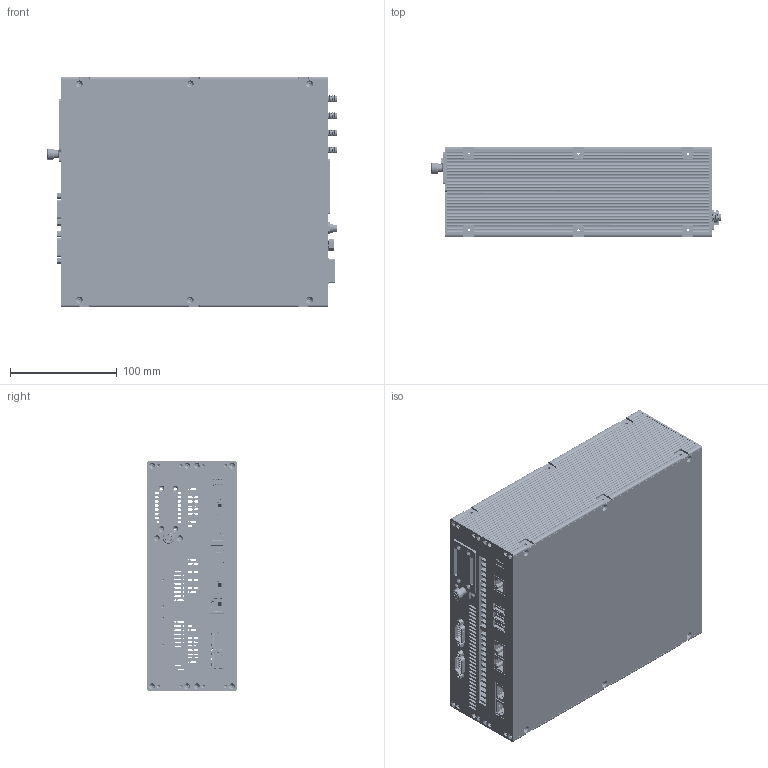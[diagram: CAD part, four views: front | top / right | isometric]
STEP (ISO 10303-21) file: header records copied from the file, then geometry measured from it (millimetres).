
FILE_DESCRIPTION(/* description */ (''),/* implementation_level */ '2;1');
FILE_NAME(/* name */ 'D:\Programm_Data\Autodesk\components\VP6400 BRICK LE vereinfacht kundenmodel\VP6400_02.stp',/* time_stamp */ '2024-04-17T12:12:39+02:00',/* author */ ('viskhp'),/* organization */ (''),/* preprocessor_version */ 'ST-DEVELOPER v18.1',/* originating_system */ 'Autodesk Inventor 2022',/* authorisation */ '');
FILE_SCHEMA (('AUTOMOTIVE_DESIGN { 1 0 10303 214 3 1 1 }'));
Products named in the file (1): VP6400_06
Bounding box: 272.43 x 84 x 216 mm (x, y, z)
Volume: 1150696.4 mm3; surface area: 765416.1 mm2
Topology: 1 solids, 21 shells, 14293 faces, 39800 edges, 25838 vertices
Faces by surface type: plane 8478, cylinder 4585, bspline 656, cone 358, torus 157, sphere 59
Full cylindrical faces by diameter (mm): 0.3 x5, 0.35 x8, 0.353 x4, 0.4 x1, 0.46 x30, 0.5 x11, 0.635 x62, 0.64 x30, 0.65 x1, 0.69 x30, 0.7 x30, 0.75 x1, 0.8 x21, 0.85 x2, 0.89 x30, 0.9 x2, 0.914 x34, 0.92 x4, 1 x72, 1.041 x12, 1.05 x122, 1.1 x50, 1.14 x8, 1.25 x6, 1.27 x12, 1.3 x8, 1.35 x2, 1.4 x6, 1.5 x20, 1.55 x7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
Entity records: 537555 total; most frequent: CARTESIAN_POINT 150504, ORIENTED_EDGE 79218, DIRECTION 75021, EDGE_CURVE 39609, LINE 27315, VECTOR 27315, VERTEX_POINT 25824, AXIS2_PLACEMENT_3D 23853
